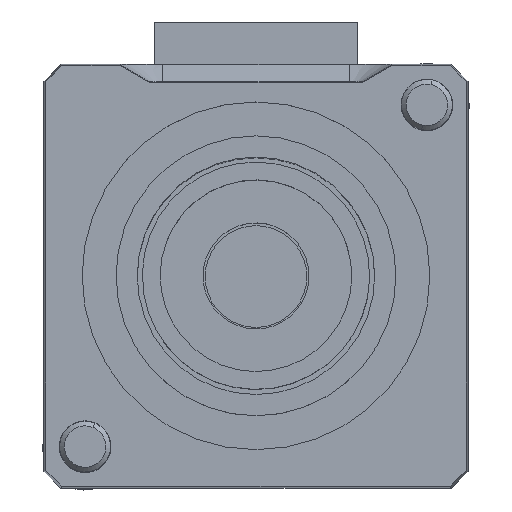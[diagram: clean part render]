
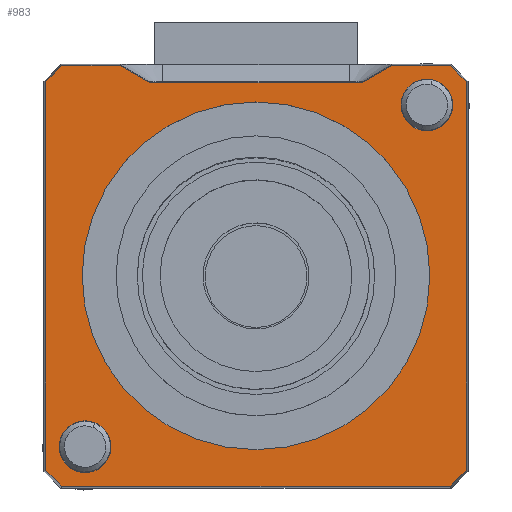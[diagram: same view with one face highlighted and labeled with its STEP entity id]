
A CAD part, top view. The second image highlights one B-rep face of the part: STEP entity #983.
In plain terms, the highlighted planar face has unit normal (0, 0, 1).
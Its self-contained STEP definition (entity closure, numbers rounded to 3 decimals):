
#11 = EDGE_CURVE ( 'NONE', #2061, #665, #2792, .T. ) ;
#13 = DIRECTION ( 'NONE',  ( 0., 0., -1. ) ) ;
#57 = CARTESIAN_POINT ( 'NONE',  ( -23.2, -20.15, 38.5 ) ) ;
#75 = CARTESIAN_POINT ( 'NONE',  ( -23., -24.792, 38.5 ) ) ;
#95 = CIRCLE ( 'NONE', #3450, 3.05 ) ;
#110 = LINE ( 'NONE', #3905, #775 ) ;
#175 = CARTESIAN_POINT ( 'NONE',  ( 20.15, 20.15, 38.5 ) ) ;
#187 = ORIENTED_EDGE ( 'NONE', *, *, #2532, .T. ) ;
#188 = CARTESIAN_POINT ( 'NONE',  ( -22.853, 24.853, 38.5 ) ) ;
#208 = EDGE_LOOP ( 'NONE', ( #2508, #3513, #1881, #3608, #2215, #1089, #1684, #3606, #2378, #2187, #2682, #3009 ) ) ;
#253 = CARTESIAN_POINT ( 'NONE',  ( 15.972, 24.776, 38.5 ) ) ;
#258 = VECTOR ( 'NONE', #2719, 1000. ) ;
#318 = VECTOR ( 'NONE', #679, 1000. ) ;
#385 = AXIS2_PLACEMENT_3D ( 'NONE', #3106, #841, #3394 ) ;
#405 = DIRECTION ( 'NONE',  ( 1., 0., 0. ) ) ;
#411 = FACE_BOUND ( 'NONE', #3872, .T. ) ;
#423 = CARTESIAN_POINT ( 'NONE',  ( 16., 24.792, 38.5 ) ) ;
#483 = CARTESIAN_POINT ( 'NONE',  ( -16., 24.792, 38.5 ) ) ;
#494 = CARTESIAN_POINT ( 'NONE',  ( 22.853, -24.853, 38.5 ) ) ;
#497 = CARTESIAN_POINT ( 'NONE',  ( 17.1, 20.15, 38.5 ) ) ;
#514 = CARTESIAN_POINT ( 'NONE',  ( 24.792, -22.914, 38.5 ) ) ;
#532 = DIRECTION ( 'NONE',  ( 0., 1., 0. ) ) ;
#542 = CARTESIAN_POINT ( 'NONE',  ( -12.536, 22.792, 38.5 ) ) ;
#543 = EDGE_CURVE ( 'NONE', #3183, #3376, #1383, .T. ) ;
#553 = DIRECTION ( 'NONE',  ( 0.866, 0.5, 0. ) ) ;
#586 = LINE ( 'NONE', #2160, #3881 ) ;
#589 = PLANE ( 'NONE',  #2412 ) ;
#612 = LINE ( 'NONE', #3836, #1919 ) ;
#613 = VECTOR ( 'NONE', #2294, 1000. ) ;
#641 = DIRECTION ( 'NONE',  ( 0., 1., 0. ) ) ;
#665 = VERTEX_POINT ( 'NONE', #1857 ) ;
#679 = DIRECTION ( 'NONE',  ( 1., 0., 0. ) ) ;
#684 = CARTESIAN_POINT ( 'NONE',  ( -22.853, -24.853, 38.5 ) ) ;
#703 = CARTESIAN_POINT ( 'NONE',  ( -11., 22.792, 38.5 ) ) ;
#720 = VECTOR ( 'NONE', #3627, 1000. ) ;
#743 = CARTESIAN_POINT ( 'NONE',  ( -22.914, -24.792, 38.5 ) ) ;
#754 = EDGE_CURVE ( 'NONE', #904, #3705, #2833, .T. ) ;
#761 = AXIS2_PLACEMENT_3D ( 'NONE', #3837, #1894, #641 ) ;
#773 = VECTOR ( 'NONE', #405, 1000. ) ;
#775 = VECTOR ( 'NONE', #1711, 1000. ) ;
#806 = CARTESIAN_POINT ( 'NONE',  ( -23., 24.792, 38.5 ) ) ;
#839 = EDGE_CURVE ( 'NONE', #4012, #3677, #3914, .T. ) ;
#841 = DIRECTION ( 'NONE',  ( 0., 0., -1. ) ) ;
#848 = VERTEX_POINT ( 'NONE', #423 ) ;
#862 = FACE_BOUND ( 'NONE', #1719, .T. ) ;
#865 = VECTOR ( 'NONE', #2015, 1000. ) ;
#895 = DIRECTION ( 'NONE',  ( 0.707, -0.707, 0. ) ) ;
#904 = VERTEX_POINT ( 'NONE', #743 ) ;
#907 = ORIENTED_EDGE ( 'NONE', *, *, #3227, .T. ) ;
#970 = EDGE_CURVE ( 'NONE', #1493, #2671, #1681, .T. ) ;
#983 = ADVANCED_FACE ( 'NONE', ( #2975, #411, #862, #2471 ), #589, .F. ) ;
#1073 = LINE ( 'NONE', #253, #1274 ) ;
#1089 = ORIENTED_EDGE ( 'NONE', *, *, #1942, .F. ) ;
#1095 = EDGE_CURVE ( 'NONE', #3677, #848, #1073, .T. ) ;
#1102 = DIRECTION ( 'NONE',  ( 0., 0., -1. ) ) ;
#1234 = VERTEX_POINT ( 'NONE', #4137 ) ;
#1274 = VECTOR ( 'NONE', #553, 1000. ) ;
#1277 = LINE ( 'NONE', #3586, #865 ) ;
#1316 = EDGE_CURVE ( 'NONE', #1964, #4044, #2319, .T. ) ;
#1329 = LINE ( 'NONE', #806, #258 ) ;
#1336 = DIRECTION ( 'NONE',  ( 0., 1., 0. ) ) ;
#1339 = CARTESIAN_POINT ( 'NONE',  ( 22.914, -24.792, 38.5 ) ) ;
#1383 = CIRCLE ( 'NONE', #385, 3.05 ) ;
#1440 = DIRECTION ( 'NONE',  ( 0., 1., 0. ) ) ;
#1446 = CARTESIAN_POINT ( 'NONE',  ( 0., 0., 38.5 ) ) ;
#1458 = EDGE_CURVE ( 'NONE', #1563, #1523, #3411, .T. ) ;
#1493 = VERTEX_POINT ( 'NONE', #514 ) ;
#1507 = EDGE_CURVE ( 'NONE', #3376, #3183, #95, .T. ) ;
#1512 = CARTESIAN_POINT ( 'NONE',  ( 0., 20.5, 38.5 ) ) ;
#1523 = VERTEX_POINT ( 'NONE', #1512 ) ;
#1545 = LINE ( 'NONE', #75, #2939 ) ;
#1563 = VERTEX_POINT ( 'NONE', #3702 ) ;
#1668 = EDGE_CURVE ( 'NONE', #2671, #904, #1545, .T. ) ;
#1681 = LINE ( 'NONE', #494, #720 ) ;
#1684 = ORIENTED_EDGE ( 'NONE', *, *, #2077, .F. ) ;
#1711 = DIRECTION ( 'NONE',  ( 0., -1., 0. ) ) ;
#1719 = EDGE_LOOP ( 'NONE', ( #187, #1924 ) ) ;
#1751 = DIRECTION ( 'NONE',  ( 0., 1., 0. ) ) ;
#1767 = DIRECTION ( 'NONE',  ( 0., 0., -1. ) ) ;
#1816 = CIRCLE ( 'NONE', #3254, 3.05 ) ;
#1825 = DIRECTION ( 'NONE',  ( 0., 1., 0. ) ) ;
#1857 = CARTESIAN_POINT ( 'NONE',  ( -22.914, 24.792, 38.5 ) ) ;
#1881 = ORIENTED_EDGE ( 'NONE', *, *, #1668, .F. ) ;
#1894 = DIRECTION ( 'NONE',  ( 0., 0., -1. ) ) ;
#1919 = VECTOR ( 'NONE', #4145, 1000. ) ;
#1924 = ORIENTED_EDGE ( 'NONE', *, *, #1458, .T. ) ;
#1942 = EDGE_CURVE ( 'NONE', #2181, #1234, #586, .T. ) ;
#1964 = VERTEX_POINT ( 'NONE', #3203 ) ;
#1975 = CARTESIAN_POINT ( 'NONE',  ( 12.536, 22.792, 38.5 ) ) ;
#2015 = DIRECTION ( 'NONE',  ( 0.866, -0.5, 0. ) ) ;
#2061 = VERTEX_POINT ( 'NONE', #3184 ) ;
#2077 = EDGE_CURVE ( 'NONE', #848, #2181, #3092, .T. ) ;
#2080 = DIRECTION ( 'NONE',  ( 0., 0., -1. ) ) ;
#2160 = CARTESIAN_POINT ( 'NONE',  ( 22.853, 24.853, 38.5 ) ) ;
#2181 = VERTEX_POINT ( 'NONE', #3913 ) ;
#2187 = ORIENTED_EDGE ( 'NONE', *, *, #2603, .F. ) ;
#2215 = ORIENTED_EDGE ( 'NONE', *, *, #3701, .F. ) ;
#2294 = DIRECTION ( 'NONE',  ( -0.707, 0.707, 0. ) ) ;
#2304 = AXIS2_PLACEMENT_3D ( 'NONE', #3247, #13, #1336 ) ;
#2319 = CIRCLE ( 'NONE', #2304, 3.05 ) ;
#2378 = ORIENTED_EDGE ( 'NONE', *, *, #839, .F. ) ;
#2412 = AXIS2_PLACEMENT_3D ( 'NONE', #3439, #3426, #1825 ) ;
#2452 = DIRECTION ( 'NONE',  ( 0.707, 0.707, 0. ) ) ;
#2471 = FACE_OUTER_BOUND ( 'NONE', #208, .T. ) ;
#2508 = ORIENTED_EDGE ( 'NONE', *, *, #3546, .F. ) ;
#2532 = EDGE_CURVE ( 'NONE', #1523, #1563, #2680, .T. ) ;
#2603 = EDGE_CURVE ( 'NONE', #3273, #4012, #1277, .T. ) ;
#2671 = VERTEX_POINT ( 'NONE', #1339 ) ;
#2680 = CIRCLE ( 'NONE', #761, 20.5 ) ;
#2682 = ORIENTED_EDGE ( 'NONE', *, *, #3839, .F. ) ;
#2719 = DIRECTION ( 'NONE',  ( 1., 0., 0. ) ) ;
#2773 = ORIENTED_EDGE ( 'NONE', *, *, #1316, .T. ) ;
#2792 = LINE ( 'NONE', #188, #3333 ) ;
#2833 = LINE ( 'NONE', #684, #613 ) ;
#2921 = EDGE_LOOP ( 'NONE', ( #907, #2773 ) ) ;
#2938 = ORIENTED_EDGE ( 'NONE', *, *, #543, .T. ) ;
#2939 = VECTOR ( 'NONE', #3655, 1000. ) ;
#2975 = FACE_BOUND ( 'NONE', #2921, .T. ) ;
#2996 = CARTESIAN_POINT ( 'NONE',  ( -20.15, -20.15, 38.5 ) ) ;
#3003 = CARTESIAN_POINT ( 'NONE',  ( -24.792, -22.914, 38.5 ) ) ;
#3009 = ORIENTED_EDGE ( 'NONE', *, *, #11, .F. ) ;
#3092 = LINE ( 'NONE', #4142, #318 ) ;
#3103 = CARTESIAN_POINT ( 'NONE',  ( 23.2, 20.15, 38.5 ) ) ;
#3106 = CARTESIAN_POINT ( 'NONE',  ( 20.15, 20.15, 38.5 ) ) ;
#3183 = VERTEX_POINT ( 'NONE', #497 ) ;
#3184 = CARTESIAN_POINT ( 'NONE',  ( -24.792, 22.914, 38.5 ) ) ;
#3203 = CARTESIAN_POINT ( 'NONE',  ( -17.1, -20.15, 38.5 ) ) ;
#3227 = EDGE_CURVE ( 'NONE', #4044, #1964, #1816, .T. ) ;
#3247 = CARTESIAN_POINT ( 'NONE',  ( -20.15, -20.15, 38.5 ) ) ;
#3254 = AXIS2_PLACEMENT_3D ( 'NONE', #2996, #2080, #1440 ) ;
#3273 = VERTEX_POINT ( 'NONE', #483 ) ;
#3333 = VECTOR ( 'NONE', #2452, 1000. ) ;
#3341 = ORIENTED_EDGE ( 'NONE', *, *, #1507, .T. ) ;
#3376 = VERTEX_POINT ( 'NONE', #3103 ) ;
#3394 = DIRECTION ( 'NONE',  ( 0., 1., 0. ) ) ;
#3411 = CIRCLE ( 'NONE', #3882, 20.5 ) ;
#3426 = DIRECTION ( 'NONE',  ( 0., 0., -1. ) ) ;
#3439 = CARTESIAN_POINT ( 'NONE',  ( 0., 20.5, 38.5 ) ) ;
#3450 = AXIS2_PLACEMENT_3D ( 'NONE', #175, #1767, #532 ) ;
#3513 = ORIENTED_EDGE ( 'NONE', *, *, #754, .F. ) ;
#3546 = EDGE_CURVE ( 'NONE', #3705, #2061, #612, .T. ) ;
#3586 = CARTESIAN_POINT ( 'NONE',  ( -15.972, 24.776, 38.5 ) ) ;
#3606 = ORIENTED_EDGE ( 'NONE', *, *, #1095, .F. ) ;
#3608 = ORIENTED_EDGE ( 'NONE', *, *, #970, .F. ) ;
#3627 = DIRECTION ( 'NONE',  ( -0.707, -0.707, 0. ) ) ;
#3655 = DIRECTION ( 'NONE',  ( -1., 0., 0. ) ) ;
#3677 = VERTEX_POINT ( 'NONE', #1975 ) ;
#3701 = EDGE_CURVE ( 'NONE', #1234, #1493, #110, .T. ) ;
#3702 = CARTESIAN_POINT ( 'NONE',  ( 0., -20.5, 38.5 ) ) ;
#3705 = VERTEX_POINT ( 'NONE', #3003 ) ;
#3836 = CARTESIAN_POINT ( 'NONE',  ( -24.792, 23., 38.5 ) ) ;
#3837 = CARTESIAN_POINT ( 'NONE',  ( 0., 0., 38.5 ) ) ;
#3839 = EDGE_CURVE ( 'NONE', #665, #3273, #1329, .T. ) ;
#3872 = EDGE_LOOP ( 'NONE', ( #2938, #3341 ) ) ;
#3881 = VECTOR ( 'NONE', #895, 1000. ) ;
#3882 = AXIS2_PLACEMENT_3D ( 'NONE', #1446, #1102, #1751 ) ;
#3905 = CARTESIAN_POINT ( 'NONE',  ( 24.792, 23., 38.5 ) ) ;
#3913 = CARTESIAN_POINT ( 'NONE',  ( 22.914, 24.792, 38.5 ) ) ;
#3914 = LINE ( 'NONE', #703, #773 ) ;
#4012 = VERTEX_POINT ( 'NONE', #542 ) ;
#4044 = VERTEX_POINT ( 'NONE', #57 ) ;
#4137 = CARTESIAN_POINT ( 'NONE',  ( 24.792, 22.914, 38.5 ) ) ;
#4142 = CARTESIAN_POINT ( 'NONE',  ( -23., 24.792, 38.5 ) ) ;
#4145 = DIRECTION ( 'NONE',  ( 0., 1., 0. ) ) ;
